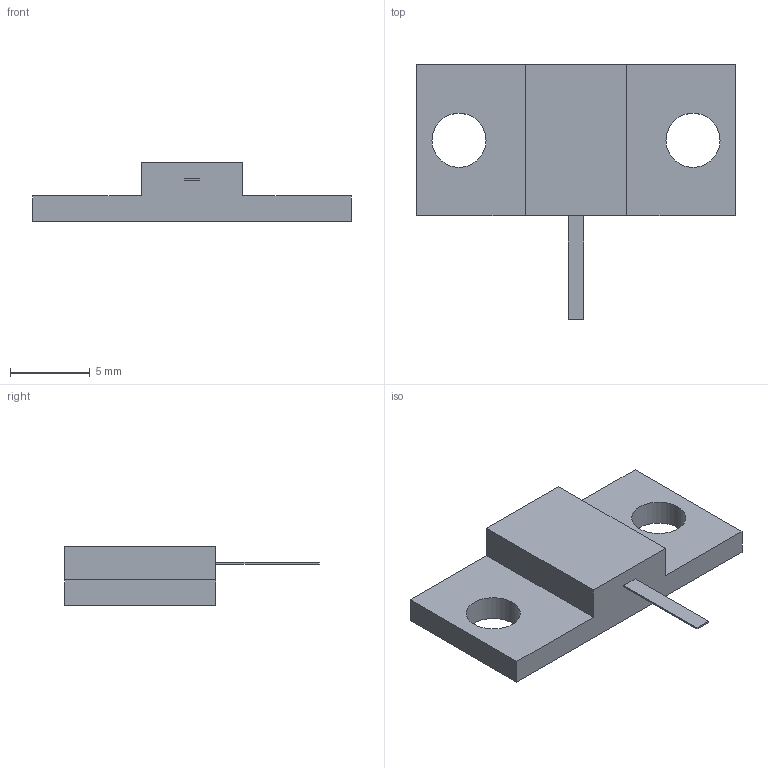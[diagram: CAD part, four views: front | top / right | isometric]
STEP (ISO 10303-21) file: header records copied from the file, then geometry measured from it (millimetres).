
FILE_DESCRIPTION(('STEP AP203'), '1');
FILE_NAME('P1-170-150-32', '', ('UNSPECIFIED'), ('UNSPECIFIED'), 'ASCON STEP Converter 1.6', 'ASCON Math Kernel', '');
FILE_SCHEMA(('CONFIG_CONTROL_DESIGN'));
Length unit declared in the file: millimetre
Bounding box: 20 x 16 x 3.7 mm (x, y, z)
Volume: 403.3 mm3; surface area: 553.3 mm2
Topology: 1 solids, 1 shells, 17 faces, 42 edges, 28 vertices
Faces by surface type: plane 15, cylinder 2
Full cylindrical faces by diameter (mm): 3.4 x2
Entity records: 678 total; most frequent: CARTESIAN_POINT 86, DIRECTION 80, ORIENTED_EDGE 80, EDGE_CURVE 40, LINE 36, VECTOR 36, VERTEX_POINT 28, EDGE_LOOP 24
